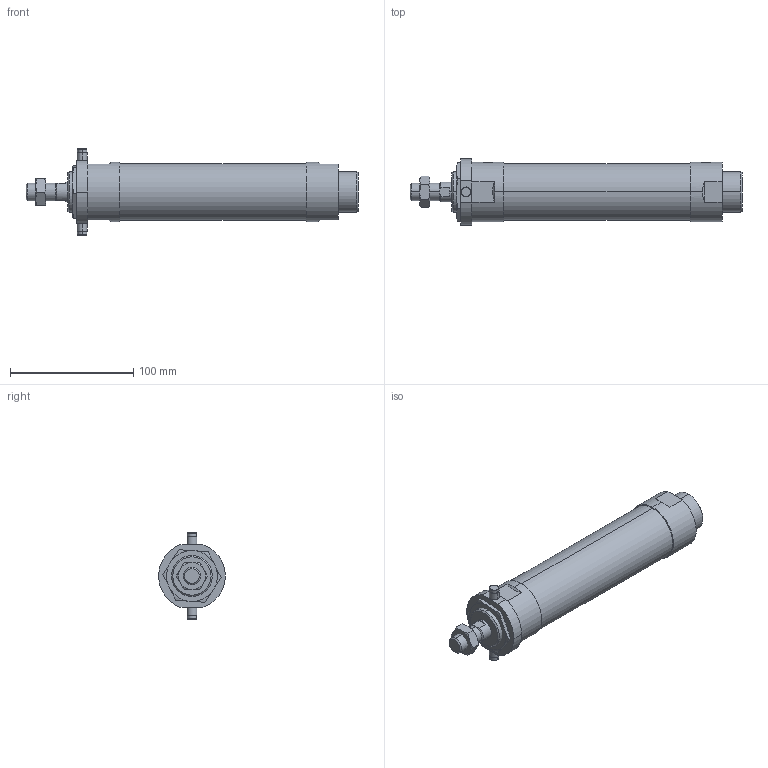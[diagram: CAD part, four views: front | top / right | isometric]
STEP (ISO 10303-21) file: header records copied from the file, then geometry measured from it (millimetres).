
FILE_DESCRIPTION (( 'STEP AP203' ), '1' );
FILE_NAME ('J#2-40-100-T.STEP', '2016-03-08T07:58:59', ( '' ), ( '' ), 'SwSTEP 2.0', 'SolidWorks 2014', '' );
FILE_SCHEMA (( 'CONFIG_CONTROL_DESIGN' ));
Length unit declared in the file: millimetre
Products named in the file (5): J#2-40-100; J#2-40-T; J#2-40-100-T
Assembly tree (4 placements, depth 2):
  J#2-40-100-T
    J#2-40-100
    (unnamed)
    (unnamed)
    J#2-40-T
Bounding box: 269 x 53.91 x 70 mm (x, y, z)
Volume: 391957.9 mm3; surface area: 48722.8 mm2
Topology: 4 solids, 4 shells, 121 faces, 279 edges, 171 vertices
Faces by surface type: plane 39, cylinder 35, torus 24, cone 23
Entity records: 4265 total; most frequent: CARTESIAN_POINT 1053, DIRECTION 576, ORIENTED_EDGE 550, EDGE_CURVE 275, AXIS2_PLACEMENT_3D 236, VERTEX_POINT 171, EDGE_LOOP 136, FACE_OUTER_BOUND 121
